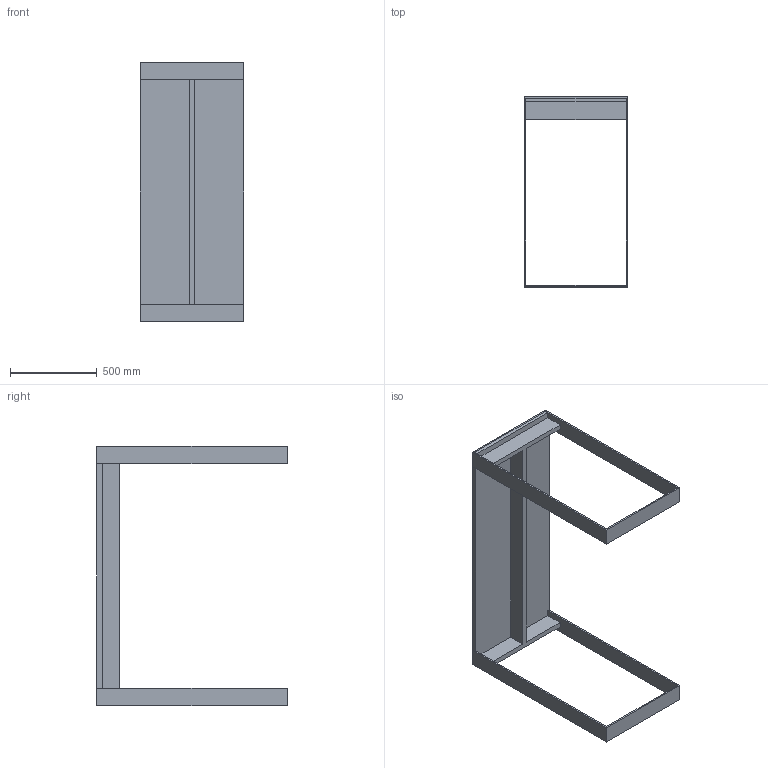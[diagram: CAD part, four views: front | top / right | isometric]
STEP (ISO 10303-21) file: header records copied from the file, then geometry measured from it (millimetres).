
FILE_DESCRIPTION (( 'STEP AP203' ), '1' );
FILE_NAME ('Haag 1500x600x1100.STEP', '2019-04-02T18:06:37', ( '' ), ( '' ), 'SwSTEP 2.0', 'SolidWorks 2019', '' );
FILE_SCHEMA (( 'CONFIG_CONTROL_DESIGN' ));
Length unit declared in the file: millimetre
Products named in the file (1): Haag 1500x600x1100
Bounding box: 600 x 1100 x 1500 mm (x, y, z)
Volume: 40030000 mm3; surface area: 4056200 mm2
Topology: 4 solids, 4 shells, 48 faces, 120 edges, 80 vertices
Faces by surface type: plane 48
Entity records: 1483 total; most frequent: CARTESIAN_POINT 249, ORIENTED_EDGE 240, DIRECTION 218, LINE 120, VECTOR 120, EDGE_CURVE 120, VERTEX_POINT 80, EDGE_LOOP 52
